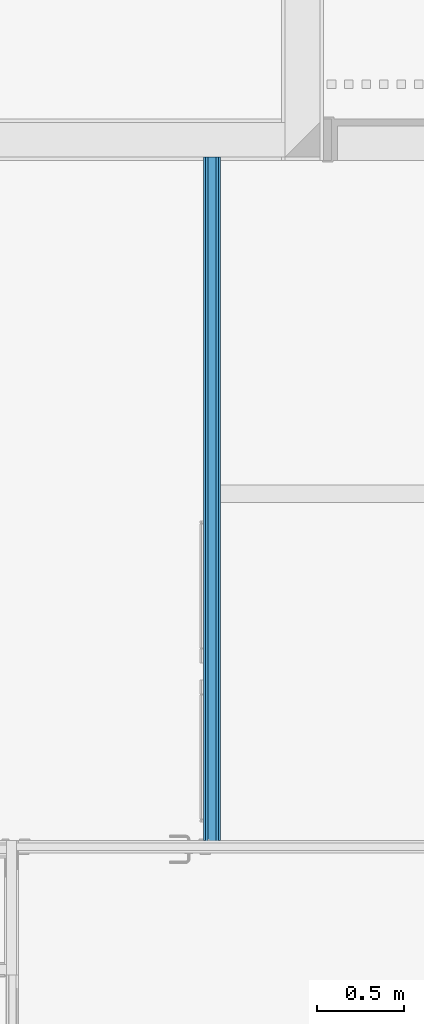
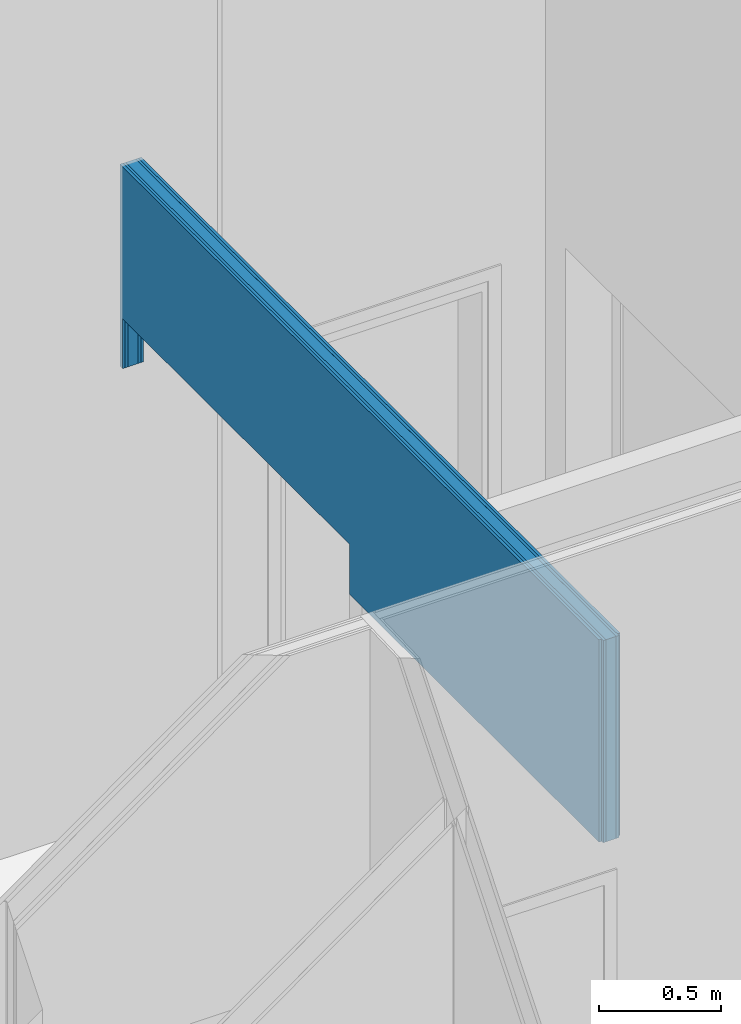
# One storey, part 32 of 34: 5 building element parts, 2 openings, 1 element without a shape of its own.
"""IFC2X3 building model written with IfcOpenShell, lengths in metres."""

from ifc_helpers import new_model, entity, si_unit, converted_unit, derived_unit, money_unit, direction, frame, origin_with_axes, origin_2d_with_axis, place, context, subcontext, project, spatial, polyline, rectangle, outline, extrude, boolean, faceted_brep, material, type_object, element, aggregate, save


model = new_model("IFC2X3")

# Units and contexts
model_context = context("Model", 3, precision=1e-05, world=origin_with_axes(), true_north=direction((0.0, 1.0)))
body_context = subcontext(model_context, "Body", "Model", "MODEL_VIEW")
ifc_project = project(units=[si_unit("LENGTHUNIT", "METRE"), si_unit("AREAUNIT", "SQUARE_METRE"), si_unit("VOLUMEUNIT", "CUBIC_METRE"), converted_unit("PLANEANGLEUNIT", "DEGREE", entity("IfcPlaneAngleMeasure", 0.0174532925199), si_unit("PLANEANGLEUNIT", "RADIAN"), dimensions=[0, 0, 0, 0, 0, 0, 0]), money_unit("CHF"), converted_unit("TIMEUNIT", "Year", entity("IfcTimeMeasure", 31556926.0), si_unit("TIMEUNIT", "SECOND"), dimensions=[0, 0, 1, 0, 0, 0, 0]), si_unit("MASSUNIT", "GRAM", prefix="KILO"), si_unit("THERMODYNAMICTEMPERATUREUNIT", "DEGREE_CELSIUS"), si_unit("LUMINOUSINTENSITYUNIT", "LUMEN"), si_unit("ENERGYUNIT", "JOULE", prefix="MEGA"), derived_unit("THERMALCONDUCTANCEUNIT", [(si_unit("POWERUNIT", "WATT"), 1), (si_unit("LENGTHUNIT", "METRE"), -1), (si_unit("THERMODYNAMICTEMPERATUREUNIT", "KELVIN"), -1)]), derived_unit("SPECIFICHEATCAPACITYUNIT", [(si_unit("ENERGYUNIT", "JOULE"), 1), (si_unit("MASSUNIT", "GRAM", prefix="KILO"), -1), (si_unit("THERMODYNAMICTEMPERATUREUNIT", "KELVIN"), -1)]), derived_unit("MASSDENSITYUNIT", [(si_unit("MASSUNIT", "GRAM", prefix="KILO"), 1), (si_unit("VOLUMEUNIT", "CUBIC_METRE"), -1)])], contexts=[model_context])

# Site, building, storey
site_placement = place(None, origin_with_axes())
site = spatial("IfcSite", under=ifc_project, at=site_placement, Name="Site", CompositionType="ELEMENT")
building_placement = place(site_placement, origin_with_axes())
building = spatial("IfcBuilding", under=site, at=building_placement, Name="Bâtiment", CompositionType="ELEMENT")
storey_placement = place(building_placement, origin_with_axes())
storey = spatial("IfcBuildingStorey", under=building, at=storey_placement, Name="Rez-de-chaussée", CompositionType="ELEMENT", Elevation=0.0)

# Wall, openings, building element parts
wall_type = type_object("IfcWallType", Name="Cloison 100/48 100", PredefinedType="NOTDEFINED")
wall_placement = place(storey_placement, frame((31.6794697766, 15.07, 2.25), z_axis=(0.0, 0.0, 1.0), x_axis=(0.0, -1.0, 0.0)))
wall = element("IfcWall", 1, at=wall_placement, inside=storey, type_object=wall_type, Name="MUR_EXT-009")
opening_1_placement = place(wall_placement, frame((3.11993716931, 0.0, -2.25), z_axis=(0.0, 0.0, 1.0), x_axis=(1.0, 0.0, 0.0)))
element("IfcOpeningElement", 2, at=opening_1_placement, cuts=wall, Name="PORTE-PP90 A2 - PF1/2H", context=body_context, shape_type="SweptSolid", body=[
    extrude(rectangle(XDim=1.93987433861, YDim=2.25, at=origin_2d_with_axis()), frame((0.0, -0.1, 1.125), z_axis=(0.0, -1.0, 0.0), x_axis=(-1.0, 0.0, 0.0)), (0.0, 0.0, -1.0), 0.3),
])
opening_2_placement = place(wall_placement, frame((1.12, 0.0, -2.25), z_axis=(0.0, 0.0, 1.0), x_axis=(1.0, 0.0, 0.0)))
element("IfcOpeningElement", 3, at=opening_2_placement, cuts=wall, Name="PORTE-003", context=body_context, shape_type="SweptSolid", body=[
    extrude(rectangle(XDim=1.86, YDim=2.5, at=origin_2d_with_axis()), frame((0.0, 0.1, 1.25), z_axis=(0.0, -1.0, 0.0), x_axis=(1.0, 0.0, 0.0)), (0.0, 0.0, 1.0), 0.3),
])
ifc_material_1 = material(Name="Finition int - Plaque de plâtre")
building_element_part_1_placement = place(wall_placement, origin_with_axes())
solid_1 = boolean("DIFFERENCE", boolean("DIFFERENCE", boolean("DIFFERENCE", boolean("DIFFERENCE", boolean("DIFFERENCE", boolean("DIFFERENCE", boolean("DIFFERENCE", boolean("DIFFERENCE", extrude(outline(polyline([(-0.05, 0.037), (4.15987433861, 0.037), (4.15987433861, 0.05), (-0.05, 0.05), (-0.05, 0.037)])), origin_with_axes(), (0.0, 0.0, 1.0), 1.01022608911), faceted_brep([(4.08987433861, 0.05, 0.0), (4.08987433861, 0.05, 1.01022608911), (4.15987433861, 0.05, 1.01022608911), (4.15987433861, 0.05, 0.0), (4.08987433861, 0.037, 1.01022608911), (4.08987433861, 0.037, 0.0), (4.15987433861, 0.037, 1.01022608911), (4.15987433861, 0.037, 0.0)], [[[0, 1, 2, 3]], [[4, 1, 0, 5]], [[1, 4, 6, 2]], [[6, 7, 3, 2]], [[5, 0, 3, 7]], [[4, 5, 7, 6]]])), faceted_brep([(2.137, 0.05, 0.25), (2.137, 0.05, 0.0), (2.063, 0.05, 0.0), (2.063, 0.05, 0.25), (2.137, 0.037, 0.25), (2.137, 0.037, 0.0), (2.063, 0.037, 0.0), (2.063, 0.037, 0.25), (2.076, 0.037, 0.25), (2.124, 0.037, 0.25)], [[[0, 1, 2, 3]], [[1, 0, 4, 5]], [[6, 2, 1, 5]], [[3, 2, 6, 7]], [[0, 3, 7, 8, 9, 4]], [[7, 6, 5, 4, 9, 8]]])), faceted_brep([(0.17, 0.037, 1.01022608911), (0.17, 0.05, 1.01022608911), (-0.05, 0.05, 1.01022608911), (-0.05, 0.037, 1.01022608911), (0.17, 0.05, 0.0), (0.17, 0.037, 0.0), (-0.05, 0.05, 0.0), (-0.05, 0.037, 0.0)], [[[0, 1, 2, 3]], [[4, 1, 0, 5]], [[1, 4, 6, 2]], [[2, 6, 7, 3]], [[5, 0, 3, 7]], [[4, 5, 7, 6]]])), faceted_brep([(4.10287433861, 0.037, 0.0), (4.10287433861, 0.037, 1.01022608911), (4.15987433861, 0.037, 1.01022608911), (4.15987433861, 0.037, 0.0), (4.10287433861, 0.024, 1.01022608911), (4.10287433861, 0.024, 0.0), (4.15987433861, 0.024, 1.01022608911), (4.15987433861, 0.024, 0.0)], [[[0, 1, 2, 3]], [[4, 1, 0, 5]], [[1, 4, 6, 2]], [[6, 7, 3, 2]], [[5, 0, 3, 7]], [[4, 5, 7, 6]]])), faceted_brep([(2.124, 0.037, 0.25), (2.124, 0.037, 0.0), (2.076, 0.037, 0.0), (2.076, 0.037, 0.25), (2.124, 0.024, 0.25), (2.124, 0.024, 0.0), (2.076, 0.024, 0.0), (2.076, 0.024, 0.25)], [[[0, 1, 2, 3]], [[1, 0, 4, 5]], [[6, 2, 1, 5]], [[3, 2, 6, 7]], [[0, 3, 7, 4]], [[7, 6, 5, 4]]])), faceted_brep([(0.17, 0.024, 1.01022608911), (0.17, 0.037, 1.01022608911), (-0.05, 0.037, 1.01022608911), (-0.05, 0.024, 1.01022608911), (0.17, 0.037, 0.0), (0.17, 0.024, 0.0), (-0.05, 0.037, 0.0), (-0.05, 0.024, 0.0)], [[[0, 1, 2, 3]], [[4, 1, 0, 5]], [[1, 4, 6, 2]], [[2, 6, 7, 3]], [[5, 0, 3, 7]], [[4, 5, 7, 6]]])), faceted_brep([(4.10287433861, 0.024, 0.0), (4.10287433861, 0.024, 1.01022608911), (4.15987433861, 0.024, 1.01022608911), (4.15987433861, 0.024, 0.0), (4.10287433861, -0.024, 1.01022608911), (4.10287433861, -0.024, 0.0), (4.15987433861, -0.024, 1.01022608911), (4.15987433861, -0.024, 0.0)], [[[0, 1, 2, 3]], [[4, 1, 0, 5]], [[1, 4, 6, 2]], [[6, 7, 3, 2]], [[5, 0, 3, 7]], [[4, 5, 7, 6]]])), faceted_brep([(0.17, -0.024, 1.01022608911), (0.17, 0.024, 1.01022608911), (-0.05, 0.024, 1.01022608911), (-0.05, -0.024, 1.01022608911), (0.17, -0.024, 0.0), (0.17, 0.024, 0.0), (-0.05, 0.024, 0.0), (-0.05, -0.024, 0.0)], [[[0, 1, 2, 3]], [[1, 0, 4, 5]], [[1, 5, 6, 2]], [[2, 6, 7, 3]], [[4, 0, 3, 7]], [[5, 4, 7, 6]]]))
building_element_part_1 = element("IfcBuildingElementPart", 4, at=building_element_part_1_placement, material=ifc_material_1, Name="Finition int - Plaque de plâtre", context=body_context, shape_type="CSG", body=[
    boolean("DIFFERENCE", boolean("DIFFERENCE", boolean("DIFFERENCE", boolean("DIFFERENCE", solid_1, faceted_brep([(4.10287433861, -0.024, 0.0), (4.10287433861, -0.024, 1.01022608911), (4.15987433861, -0.024, 1.01022608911), (4.15987433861, -0.024, 0.0), (4.10287433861, -0.037, 1.01022608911), (4.10287433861, -0.037, 0.0), (4.15987433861, -0.037, 1.01022608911), (4.15987433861, -0.037, 0.0)], [[[0, 1, 2, 3]], [[4, 1, 0, 5]], [[1, 4, 6, 2]], [[6, 7, 3, 2]], [[5, 0, 3, 7]], [[4, 5, 7, 6]]])), faceted_brep([(0.17, -0.037, 1.01022608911), (0.17, -0.024, 1.01022608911), (-0.05, -0.024, 1.01022608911), (-0.05, -0.037, 1.01022608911), (0.17, -0.037, 0.0), (0.17, -0.024, 0.0), (-0.05, -0.024, 0.0), (-0.05, -0.037, 0.0)], [[[0, 1, 2, 3]], [[1, 0, 4, 5]], [[1, 5, 6, 2]], [[2, 6, 7, 3]], [[4, 0, 3, 7]], [[5, 4, 7, 6]]])), faceted_brep([(4.08987433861, -0.037, 0.0), (4.08987433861, -0.037, 1.01022608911), (4.15987433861, -0.037, 1.01022608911), (4.15987433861, -0.037, 0.0), (4.08987433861, -0.05, 1.01022608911), (4.08987433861, -0.05, 0.0), (4.15987433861, -0.05, 1.01022608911), (4.15987433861, -0.05, 0.0)], [[[0, 1, 2, 3]], [[4, 1, 0, 5]], [[1, 4, 6, 2]], [[6, 7, 3, 2]], [[5, 0, 3, 7]], [[4, 5, 7, 6]]])), faceted_brep([(0.17, -0.05, 1.01022608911), (0.17, -0.037, 1.01022608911), (-0.05, -0.037, 1.01022608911), (-0.05, -0.05, 1.01022608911), (0.17, -0.037, 0.0), (0.17, -0.05, 0.0), (-0.05, -0.037, 0.0), (-0.05, -0.05, 0.0)], [[[0, 1, 2, 3]], [[4, 1, 0, 5]], [[1, 4, 6, 2]], [[2, 6, 7, 3]], [[5, 0, 3, 7]], [[4, 5, 7, 6]]])),
])
building_element_part_2_placement = place(wall_placement, origin_with_axes())
solid_2 = boolean("DIFFERENCE", boolean("DIFFERENCE", boolean("DIFFERENCE", boolean("DIFFERENCE", boolean("DIFFERENCE", boolean("DIFFERENCE", boolean("DIFFERENCE", boolean("DIFFERENCE", extrude(outline(polyline([(-0.05, 0.024), (4.15987433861, 0.024), (4.15987433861, 0.037), (-0.05, 0.037), (-0.05, 0.024)])), origin_with_axes(), (0.0, 0.0, 1.0), 1.01022608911), faceted_brep([(4.08987433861, 0.05, 0.0), (4.08987433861, 0.05, 1.01022608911), (4.15987433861, 0.05, 1.01022608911), (4.15987433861, 0.05, 0.0), (4.08987433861, 0.037, 1.01022608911), (4.08987433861, 0.037, 0.0), (4.15987433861, 0.037, 1.01022608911), (4.15987433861, 0.037, 0.0)], [[[0, 1, 2, 3]], [[4, 1, 0, 5]], [[1, 4, 6, 2]], [[6, 7, 3, 2]], [[5, 0, 3, 7]], [[4, 5, 7, 6]]])), faceted_brep([(2.137, 0.05, 0.25), (2.137, 0.05, 0.0), (2.063, 0.05, 0.0), (2.063, 0.05, 0.25), (2.137, 0.037, 0.25), (2.137, 0.037, 0.0), (2.063, 0.037, 0.0), (2.063, 0.037, 0.25), (2.076, 0.037, 0.25), (2.124, 0.037, 0.25)], [[[0, 1, 2, 3]], [[1, 0, 4, 5]], [[6, 2, 1, 5]], [[3, 2, 6, 7]], [[0, 3, 7, 8, 9, 4]], [[7, 6, 5, 4, 9, 8]]])), faceted_brep([(0.17, 0.037, 1.01022608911), (0.17, 0.05, 1.01022608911), (-0.05, 0.05, 1.01022608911), (-0.05, 0.037, 1.01022608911), (0.17, 0.05, 0.0), (0.17, 0.037, 0.0), (-0.05, 0.05, 0.0), (-0.05, 0.037, 0.0)], [[[0, 1, 2, 3]], [[4, 1, 0, 5]], [[1, 4, 6, 2]], [[2, 6, 7, 3]], [[5, 0, 3, 7]], [[4, 5, 7, 6]]])), faceted_brep([(4.10287433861, 0.037, 0.0), (4.10287433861, 0.037, 1.01022608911), (4.15987433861, 0.037, 1.01022608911), (4.15987433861, 0.037, 0.0), (4.10287433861, 0.024, 1.01022608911), (4.10287433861, 0.024, 0.0), (4.15987433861, 0.024, 1.01022608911), (4.15987433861, 0.024, 0.0)], [[[0, 1, 2, 3]], [[4, 1, 0, 5]], [[1, 4, 6, 2]], [[6, 7, 3, 2]], [[5, 0, 3, 7]], [[4, 5, 7, 6]]])), faceted_brep([(2.124, 0.037, 0.25), (2.124, 0.037, 0.0), (2.076, 0.037, 0.0), (2.076, 0.037, 0.25), (2.124, 0.024, 0.25), (2.124, 0.024, 0.0), (2.076, 0.024, 0.0), (2.076, 0.024, 0.25)], [[[0, 1, 2, 3]], [[1, 0, 4, 5]], [[6, 2, 1, 5]], [[3, 2, 6, 7]], [[0, 3, 7, 4]], [[7, 6, 5, 4]]])), faceted_brep([(0.17, 0.024, 1.01022608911), (0.17, 0.037, 1.01022608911), (-0.05, 0.037, 1.01022608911), (-0.05, 0.024, 1.01022608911), (0.17, 0.037, 0.0), (0.17, 0.024, 0.0), (-0.05, 0.037, 0.0), (-0.05, 0.024, 0.0)], [[[0, 1, 2, 3]], [[4, 1, 0, 5]], [[1, 4, 6, 2]], [[2, 6, 7, 3]], [[5, 0, 3, 7]], [[4, 5, 7, 6]]])), faceted_brep([(4.10287433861, 0.024, 0.0), (4.10287433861, 0.024, 1.01022608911), (4.15987433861, 0.024, 1.01022608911), (4.15987433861, 0.024, 0.0), (4.10287433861, -0.024, 1.01022608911), (4.10287433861, -0.024, 0.0), (4.15987433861, -0.024, 1.01022608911), (4.15987433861, -0.024, 0.0)], [[[0, 1, 2, 3]], [[4, 1, 0, 5]], [[1, 4, 6, 2]], [[6, 7, 3, 2]], [[5, 0, 3, 7]], [[4, 5, 7, 6]]])), faceted_brep([(0.17, -0.024, 1.01022608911), (0.17, 0.024, 1.01022608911), (-0.05, 0.024, 1.01022608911), (-0.05, -0.024, 1.01022608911), (0.17, -0.024, 0.0), (0.17, 0.024, 0.0), (-0.05, 0.024, 0.0), (-0.05, -0.024, 0.0)], [[[0, 1, 2, 3]], [[1, 0, 4, 5]], [[1, 5, 6, 2]], [[2, 6, 7, 3]], [[4, 0, 3, 7]], [[5, 4, 7, 6]]]))
building_element_part_2 = element("IfcBuildingElementPart", 5, at=building_element_part_2_placement, material=ifc_material_1, Name="Finition int - Plaque de plâtre", context=body_context, shape_type="CSG", body=[
    boolean("DIFFERENCE", boolean("DIFFERENCE", boolean("DIFFERENCE", boolean("DIFFERENCE", solid_2, faceted_brep([(4.10287433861, -0.024, 0.0), (4.10287433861, -0.024, 1.01022608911), (4.15987433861, -0.024, 1.01022608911), (4.15987433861, -0.024, 0.0), (4.10287433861, -0.037, 1.01022608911), (4.10287433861, -0.037, 0.0), (4.15987433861, -0.037, 1.01022608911), (4.15987433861, -0.037, 0.0)], [[[0, 1, 2, 3]], [[4, 1, 0, 5]], [[1, 4, 6, 2]], [[6, 7, 3, 2]], [[5, 0, 3, 7]], [[4, 5, 7, 6]]])), faceted_brep([(0.17, -0.037, 1.01022608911), (0.17, -0.024, 1.01022608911), (-0.05, -0.024, 1.01022608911), (-0.05, -0.037, 1.01022608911), (0.17, -0.037, 0.0), (0.17, -0.024, 0.0), (-0.05, -0.024, 0.0), (-0.05, -0.037, 0.0)], [[[0, 1, 2, 3]], [[1, 0, 4, 5]], [[1, 5, 6, 2]], [[2, 6, 7, 3]], [[4, 0, 3, 7]], [[5, 4, 7, 6]]])), faceted_brep([(4.08987433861, -0.037, 0.0), (4.08987433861, -0.037, 1.01022608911), (4.15987433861, -0.037, 1.01022608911), (4.15987433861, -0.037, 0.0), (4.08987433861, -0.05, 1.01022608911), (4.08987433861, -0.05, 0.0), (4.15987433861, -0.05, 1.01022608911), (4.15987433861, -0.05, 0.0)], [[[0, 1, 2, 3]], [[4, 1, 0, 5]], [[1, 4, 6, 2]], [[6, 7, 3, 2]], [[5, 0, 3, 7]], [[4, 5, 7, 6]]])), faceted_brep([(0.17, -0.05, 1.01022608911), (0.17, -0.037, 1.01022608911), (-0.05, -0.037, 1.01022608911), (-0.05, -0.05, 1.01022608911), (0.17, -0.037, 0.0), (0.17, -0.05, 0.0), (-0.05, -0.037, 0.0), (-0.05, -0.05, 0.0)], [[[0, 1, 2, 3]], [[4, 1, 0, 5]], [[1, 4, 6, 2]], [[2, 6, 7, 3]], [[5, 0, 3, 7]], [[4, 5, 7, 6]]])),
])
ifc_material_2 = material(Name="Isolation - Laine de verre")
building_element_part_3_placement = place(wall_placement, origin_with_axes())
solid_3 = boolean("DIFFERENCE", boolean("DIFFERENCE", boolean("DIFFERENCE", boolean("DIFFERENCE", boolean("DIFFERENCE", boolean("DIFFERENCE", boolean("DIFFERENCE", boolean("DIFFERENCE", extrude(outline(polyline([(-0.05, -0.024), (4.15987433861, -0.024), (4.15987433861, 0.024), (-0.05, 0.024), (-0.05, -0.024)])), origin_with_axes(), (0.0, 0.0, 1.0), 1.01022608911), faceted_brep([(4.08987433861, 0.05, 0.0), (4.08987433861, 0.05, 1.01022608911), (4.15987433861, 0.05, 1.01022608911), (4.15987433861, 0.05, 0.0), (4.08987433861, 0.037, 1.01022608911), (4.08987433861, 0.037, 0.0), (4.15987433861, 0.037, 1.01022608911), (4.15987433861, 0.037, 0.0)], [[[0, 1, 2, 3]], [[4, 1, 0, 5]], [[1, 4, 6, 2]], [[6, 7, 3, 2]], [[5, 0, 3, 7]], [[4, 5, 7, 6]]])), faceted_brep([(2.137, 0.05, 0.25), (2.137, 0.05, 0.0), (2.063, 0.05, 0.0), (2.063, 0.05, 0.25), (2.137, 0.037, 0.25), (2.137, 0.037, 0.0), (2.063, 0.037, 0.0), (2.063, 0.037, 0.25), (2.076, 0.037, 0.25), (2.124, 0.037, 0.25)], [[[0, 1, 2, 3]], [[1, 0, 4, 5]], [[6, 2, 1, 5]], [[3, 2, 6, 7]], [[0, 3, 7, 8, 9, 4]], [[7, 6, 5, 4, 9, 8]]])), faceted_brep([(0.17, 0.037, 1.01022608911), (0.17, 0.05, 1.01022608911), (-0.05, 0.05, 1.01022608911), (-0.05, 0.037, 1.01022608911), (0.17, 0.05, 0.0), (0.17, 0.037, 0.0), (-0.05, 0.05, 0.0), (-0.05, 0.037, 0.0)], [[[0, 1, 2, 3]], [[4, 1, 0, 5]], [[1, 4, 6, 2]], [[2, 6, 7, 3]], [[5, 0, 3, 7]], [[4, 5, 7, 6]]])), faceted_brep([(4.10287433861, 0.037, 0.0), (4.10287433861, 0.037, 1.01022608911), (4.15987433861, 0.037, 1.01022608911), (4.15987433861, 0.037, 0.0), (4.10287433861, 0.024, 1.01022608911), (4.10287433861, 0.024, 0.0), (4.15987433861, 0.024, 1.01022608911), (4.15987433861, 0.024, 0.0)], [[[0, 1, 2, 3]], [[4, 1, 0, 5]], [[1, 4, 6, 2]], [[6, 7, 3, 2]], [[5, 0, 3, 7]], [[4, 5, 7, 6]]])), faceted_brep([(2.124, 0.037, 0.25), (2.124, 0.037, 0.0), (2.076, 0.037, 0.0), (2.076, 0.037, 0.25), (2.124, 0.024, 0.25), (2.124, 0.024, 0.0), (2.076, 0.024, 0.0), (2.076, 0.024, 0.25)], [[[0, 1, 2, 3]], [[1, 0, 4, 5]], [[6, 2, 1, 5]], [[3, 2, 6, 7]], [[0, 3, 7, 4]], [[7, 6, 5, 4]]])), faceted_brep([(0.17, 0.024, 1.01022608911), (0.17, 0.037, 1.01022608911), (-0.05, 0.037, 1.01022608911), (-0.05, 0.024, 1.01022608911), (0.17, 0.037, 0.0), (0.17, 0.024, 0.0), (-0.05, 0.037, 0.0), (-0.05, 0.024, 0.0)], [[[0, 1, 2, 3]], [[4, 1, 0, 5]], [[1, 4, 6, 2]], [[2, 6, 7, 3]], [[5, 0, 3, 7]], [[4, 5, 7, 6]]])), faceted_brep([(4.10287433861, 0.024, 0.0), (4.10287433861, 0.024, 1.01022608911), (4.15987433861, 0.024, 1.01022608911), (4.15987433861, 0.024, 0.0), (4.10287433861, -0.024, 1.01022608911), (4.10287433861, -0.024, 0.0), (4.15987433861, -0.024, 1.01022608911), (4.15987433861, -0.024, 0.0)], [[[0, 1, 2, 3]], [[4, 1, 0, 5]], [[1, 4, 6, 2]], [[6, 7, 3, 2]], [[5, 0, 3, 7]], [[4, 5, 7, 6]]])), faceted_brep([(0.17, -0.024, 1.01022608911), (0.17, 0.024, 1.01022608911), (-0.05, 0.024, 1.01022608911), (-0.05, -0.024, 1.01022608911), (0.17, -0.024, 0.0), (0.17, 0.024, 0.0), (-0.05, 0.024, 0.0), (-0.05, -0.024, 0.0)], [[[0, 1, 2, 3]], [[1, 0, 4, 5]], [[1, 5, 6, 2]], [[2, 6, 7, 3]], [[4, 0, 3, 7]], [[5, 4, 7, 6]]]))
building_element_part_3 = element("IfcBuildingElementPart", 6, at=building_element_part_3_placement, material=ifc_material_2, Name="Isolation - Laine de verre", context=body_context, shape_type="CSG", body=[
    boolean("DIFFERENCE", boolean("DIFFERENCE", boolean("DIFFERENCE", boolean("DIFFERENCE", solid_3, faceted_brep([(4.10287433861, -0.024, 0.0), (4.10287433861, -0.024, 1.01022608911), (4.15987433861, -0.024, 1.01022608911), (4.15987433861, -0.024, 0.0), (4.10287433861, -0.037, 1.01022608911), (4.10287433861, -0.037, 0.0), (4.15987433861, -0.037, 1.01022608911), (4.15987433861, -0.037, 0.0)], [[[0, 1, 2, 3]], [[4, 1, 0, 5]], [[1, 4, 6, 2]], [[6, 7, 3, 2]], [[5, 0, 3, 7]], [[4, 5, 7, 6]]])), faceted_brep([(0.17, -0.037, 1.01022608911), (0.17, -0.024, 1.01022608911), (-0.05, -0.024, 1.01022608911), (-0.05, -0.037, 1.01022608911), (0.17, -0.037, 0.0), (0.17, -0.024, 0.0), (-0.05, -0.024, 0.0), (-0.05, -0.037, 0.0)], [[[0, 1, 2, 3]], [[1, 0, 4, 5]], [[1, 5, 6, 2]], [[2, 6, 7, 3]], [[4, 0, 3, 7]], [[5, 4, 7, 6]]])), faceted_brep([(4.08987433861, -0.037, 0.0), (4.08987433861, -0.037, 1.01022608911), (4.15987433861, -0.037, 1.01022608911), (4.15987433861, -0.037, 0.0), (4.08987433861, -0.05, 1.01022608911), (4.08987433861, -0.05, 0.0), (4.15987433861, -0.05, 1.01022608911), (4.15987433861, -0.05, 0.0)], [[[0, 1, 2, 3]], [[4, 1, 0, 5]], [[1, 4, 6, 2]], [[6, 7, 3, 2]], [[5, 0, 3, 7]], [[4, 5, 7, 6]]])), faceted_brep([(0.17, -0.05, 1.01022608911), (0.17, -0.037, 1.01022608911), (-0.05, -0.037, 1.01022608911), (-0.05, -0.05, 1.01022608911), (0.17, -0.037, 0.0), (0.17, -0.05, 0.0), (-0.05, -0.037, 0.0), (-0.05, -0.05, 0.0)], [[[0, 1, 2, 3]], [[4, 1, 0, 5]], [[1, 4, 6, 2]], [[2, 6, 7, 3]], [[5, 0, 3, 7]], [[4, 5, 7, 6]]])),
])
building_element_part_4_placement = place(wall_placement, origin_with_axes())
solid_4 = boolean("DIFFERENCE", boolean("DIFFERENCE", boolean("DIFFERENCE", boolean("DIFFERENCE", boolean("DIFFERENCE", boolean("DIFFERENCE", boolean("DIFFERENCE", boolean("DIFFERENCE", extrude(outline(polyline([(-0.05, -0.037), (4.15987433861, -0.037), (4.15987433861, -0.024), (-0.05, -0.024), (-0.05, -0.037)])), origin_with_axes(), (0.0, 0.0, 1.0), 1.01022608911), faceted_brep([(4.08987433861, 0.05, 0.0), (4.08987433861, 0.05, 1.01022608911), (4.15987433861, 0.05, 1.01022608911), (4.15987433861, 0.05, 0.0), (4.08987433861, 0.037, 1.01022608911), (4.08987433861, 0.037, 0.0), (4.15987433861, 0.037, 1.01022608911), (4.15987433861, 0.037, 0.0)], [[[0, 1, 2, 3]], [[4, 1, 0, 5]], [[1, 4, 6, 2]], [[6, 7, 3, 2]], [[5, 0, 3, 7]], [[4, 5, 7, 6]]])), faceted_brep([(2.137, 0.05, 0.25), (2.137, 0.05, 0.0), (2.063, 0.05, 0.0), (2.063, 0.05, 0.25), (2.137, 0.037, 0.25), (2.137, 0.037, 0.0), (2.063, 0.037, 0.0), (2.063, 0.037, 0.25), (2.076, 0.037, 0.25), (2.124, 0.037, 0.25)], [[[0, 1, 2, 3]], [[1, 0, 4, 5]], [[6, 2, 1, 5]], [[3, 2, 6, 7]], [[0, 3, 7, 8, 9, 4]], [[7, 6, 5, 4, 9, 8]]])), faceted_brep([(0.17, 0.037, 1.01022608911), (0.17, 0.05, 1.01022608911), (-0.05, 0.05, 1.01022608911), (-0.05, 0.037, 1.01022608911), (0.17, 0.05, 0.0), (0.17, 0.037, 0.0), (-0.05, 0.05, 0.0), (-0.05, 0.037, 0.0)], [[[0, 1, 2, 3]], [[4, 1, 0, 5]], [[1, 4, 6, 2]], [[2, 6, 7, 3]], [[5, 0, 3, 7]], [[4, 5, 7, 6]]])), faceted_brep([(4.10287433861, 0.037, 0.0), (4.10287433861, 0.037, 1.01022608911), (4.15987433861, 0.037, 1.01022608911), (4.15987433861, 0.037, 0.0), (4.10287433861, 0.024, 1.01022608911), (4.10287433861, 0.024, 0.0), (4.15987433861, 0.024, 1.01022608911), (4.15987433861, 0.024, 0.0)], [[[0, 1, 2, 3]], [[4, 1, 0, 5]], [[1, 4, 6, 2]], [[6, 7, 3, 2]], [[5, 0, 3, 7]], [[4, 5, 7, 6]]])), faceted_brep([(2.124, 0.037, 0.25), (2.124, 0.037, 0.0), (2.076, 0.037, 0.0), (2.076, 0.037, 0.25), (2.124, 0.024, 0.25), (2.124, 0.024, 0.0), (2.076, 0.024, 0.0), (2.076, 0.024, 0.25)], [[[0, 1, 2, 3]], [[1, 0, 4, 5]], [[6, 2, 1, 5]], [[3, 2, 6, 7]], [[0, 3, 7, 4]], [[7, 6, 5, 4]]])), faceted_brep([(0.17, 0.024, 1.01022608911), (0.17, 0.037, 1.01022608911), (-0.05, 0.037, 1.01022608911), (-0.05, 0.024, 1.01022608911), (0.17, 0.037, 0.0), (0.17, 0.024, 0.0), (-0.05, 0.037, 0.0), (-0.05, 0.024, 0.0)], [[[0, 1, 2, 3]], [[4, 1, 0, 5]], [[1, 4, 6, 2]], [[2, 6, 7, 3]], [[5, 0, 3, 7]], [[4, 5, 7, 6]]])), faceted_brep([(4.10287433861, 0.024, 0.0), (4.10287433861, 0.024, 1.01022608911), (4.15987433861, 0.024, 1.01022608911), (4.15987433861, 0.024, 0.0), (4.10287433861, -0.024, 1.01022608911), (4.10287433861, -0.024, 0.0), (4.15987433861, -0.024, 1.01022608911), (4.15987433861, -0.024, 0.0)], [[[0, 1, 2, 3]], [[4, 1, 0, 5]], [[1, 4, 6, 2]], [[6, 7, 3, 2]], [[5, 0, 3, 7]], [[4, 5, 7, 6]]])), faceted_brep([(0.17, -0.024, 1.01022608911), (0.17, 0.024, 1.01022608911), (-0.05, 0.024, 1.01022608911), (-0.05, -0.024, 1.01022608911), (0.17, -0.024, 0.0), (0.17, 0.024, 0.0), (-0.05, 0.024, 0.0), (-0.05, -0.024, 0.0)], [[[0, 1, 2, 3]], [[1, 0, 4, 5]], [[1, 5, 6, 2]], [[2, 6, 7, 3]], [[4, 0, 3, 7]], [[5, 4, 7, 6]]]))
building_element_part_4 = element("IfcBuildingElementPart", 7, at=building_element_part_4_placement, material=ifc_material_1, Name="Finition int - Plaque de plâtre", context=body_context, shape_type="CSG", body=[
    boolean("DIFFERENCE", boolean("DIFFERENCE", boolean("DIFFERENCE", boolean("DIFFERENCE", solid_4, faceted_brep([(4.10287433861, -0.024, 0.0), (4.10287433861, -0.024, 1.01022608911), (4.15987433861, -0.024, 1.01022608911), (4.15987433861, -0.024, 0.0), (4.10287433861, -0.037, 1.01022608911), (4.10287433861, -0.037, 0.0), (4.15987433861, -0.037, 1.01022608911), (4.15987433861, -0.037, 0.0)], [[[0, 1, 2, 3]], [[4, 1, 0, 5]], [[1, 4, 6, 2]], [[6, 7, 3, 2]], [[5, 0, 3, 7]], [[4, 5, 7, 6]]])), faceted_brep([(0.17, -0.037, 1.01022608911), (0.17, -0.024, 1.01022608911), (-0.05, -0.024, 1.01022608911), (-0.05, -0.037, 1.01022608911), (0.17, -0.037, 0.0), (0.17, -0.024, 0.0), (-0.05, -0.024, 0.0), (-0.05, -0.037, 0.0)], [[[0, 1, 2, 3]], [[1, 0, 4, 5]], [[1, 5, 6, 2]], [[2, 6, 7, 3]], [[4, 0, 3, 7]], [[5, 4, 7, 6]]])), faceted_brep([(4.08987433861, -0.037, 0.0), (4.08987433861, -0.037, 1.01022608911), (4.15987433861, -0.037, 1.01022608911), (4.15987433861, -0.037, 0.0), (4.08987433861, -0.05, 1.01022608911), (4.08987433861, -0.05, 0.0), (4.15987433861, -0.05, 1.01022608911), (4.15987433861, -0.05, 0.0)], [[[0, 1, 2, 3]], [[4, 1, 0, 5]], [[1, 4, 6, 2]], [[6, 7, 3, 2]], [[5, 0, 3, 7]], [[4, 5, 7, 6]]])), faceted_brep([(0.17, -0.05, 1.01022608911), (0.17, -0.037, 1.01022608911), (-0.05, -0.037, 1.01022608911), (-0.05, -0.05, 1.01022608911), (0.17, -0.037, 0.0), (0.17, -0.05, 0.0), (-0.05, -0.037, 0.0), (-0.05, -0.05, 0.0)], [[[0, 1, 2, 3]], [[4, 1, 0, 5]], [[1, 4, 6, 2]], [[2, 6, 7, 3]], [[5, 0, 3, 7]], [[4, 5, 7, 6]]])),
])
building_element_part_5_placement = place(wall_placement, origin_with_axes())
solid_5 = boolean("DIFFERENCE", boolean("DIFFERENCE", boolean("DIFFERENCE", boolean("DIFFERENCE", boolean("DIFFERENCE", boolean("DIFFERENCE", boolean("DIFFERENCE", boolean("DIFFERENCE", extrude(outline(polyline([(-0.05, -0.05), (4.15987433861, -0.05), (4.15987433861, -0.037), (-0.05, -0.037), (-0.05, -0.05)])), origin_with_axes(), (0.0, 0.0, 1.0), 1.01022608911), faceted_brep([(4.08987433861, 0.05, 0.0), (4.08987433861, 0.05, 1.01022608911), (4.15987433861, 0.05, 1.01022608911), (4.15987433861, 0.05, 0.0), (4.08987433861, 0.037, 1.01022608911), (4.08987433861, 0.037, 0.0), (4.15987433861, 0.037, 1.01022608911), (4.15987433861, 0.037, 0.0)], [[[0, 1, 2, 3]], [[4, 1, 0, 5]], [[1, 4, 6, 2]], [[6, 7, 3, 2]], [[5, 0, 3, 7]], [[4, 5, 7, 6]]])), faceted_brep([(2.137, 0.05, 0.25), (2.137, 0.05, 0.0), (2.063, 0.05, 0.0), (2.063, 0.05, 0.25), (2.137, 0.037, 0.25), (2.137, 0.037, 0.0), (2.063, 0.037, 0.0), (2.063, 0.037, 0.25), (2.076, 0.037, 0.25), (2.124, 0.037, 0.25)], [[[0, 1, 2, 3]], [[1, 0, 4, 5]], [[6, 2, 1, 5]], [[3, 2, 6, 7]], [[0, 3, 7, 8, 9, 4]], [[7, 6, 5, 4, 9, 8]]])), faceted_brep([(0.17, 0.037, 1.01022608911), (0.17, 0.05, 1.01022608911), (-0.05, 0.05, 1.01022608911), (-0.05, 0.037, 1.01022608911), (0.17, 0.05, 0.0), (0.17, 0.037, 0.0), (-0.05, 0.05, 0.0), (-0.05, 0.037, 0.0)], [[[0, 1, 2, 3]], [[4, 1, 0, 5]], [[1, 4, 6, 2]], [[2, 6, 7, 3]], [[5, 0, 3, 7]], [[4, 5, 7, 6]]])), faceted_brep([(4.10287433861, 0.037, 0.0), (4.10287433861, 0.037, 1.01022608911), (4.15987433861, 0.037, 1.01022608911), (4.15987433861, 0.037, 0.0), (4.10287433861, 0.024, 1.01022608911), (4.10287433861, 0.024, 0.0), (4.15987433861, 0.024, 1.01022608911), (4.15987433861, 0.024, 0.0)], [[[0, 1, 2, 3]], [[4, 1, 0, 5]], [[1, 4, 6, 2]], [[6, 7, 3, 2]], [[5, 0, 3, 7]], [[4, 5, 7, 6]]])), faceted_brep([(2.124, 0.037, 0.25), (2.124, 0.037, 0.0), (2.076, 0.037, 0.0), (2.076, 0.037, 0.25), (2.124, 0.024, 0.25), (2.124, 0.024, 0.0), (2.076, 0.024, 0.0), (2.076, 0.024, 0.25)], [[[0, 1, 2, 3]], [[1, 0, 4, 5]], [[6, 2, 1, 5]], [[3, 2, 6, 7]], [[0, 3, 7, 4]], [[7, 6, 5, 4]]])), faceted_brep([(0.17, 0.024, 1.01022608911), (0.17, 0.037, 1.01022608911), (-0.05, 0.037, 1.01022608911), (-0.05, 0.024, 1.01022608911), (0.17, 0.037, 0.0), (0.17, 0.024, 0.0), (-0.05, 0.037, 0.0), (-0.05, 0.024, 0.0)], [[[0, 1, 2, 3]], [[4, 1, 0, 5]], [[1, 4, 6, 2]], [[2, 6, 7, 3]], [[5, 0, 3, 7]], [[4, 5, 7, 6]]])), faceted_brep([(4.10287433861, 0.024, 0.0), (4.10287433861, 0.024, 1.01022608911), (4.15987433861, 0.024, 1.01022608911), (4.15987433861, 0.024, 0.0), (4.10287433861, -0.024, 1.01022608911), (4.10287433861, -0.024, 0.0), (4.15987433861, -0.024, 1.01022608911), (4.15987433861, -0.024, 0.0)], [[[0, 1, 2, 3]], [[4, 1, 0, 5]], [[1, 4, 6, 2]], [[6, 7, 3, 2]], [[5, 0, 3, 7]], [[4, 5, 7, 6]]])), faceted_brep([(0.17, -0.024, 1.01022608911), (0.17, 0.024, 1.01022608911), (-0.05, 0.024, 1.01022608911), (-0.05, -0.024, 1.01022608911), (0.17, -0.024, 0.0), (0.17, 0.024, 0.0), (-0.05, 0.024, 0.0), (-0.05, -0.024, 0.0)], [[[0, 1, 2, 3]], [[1, 0, 4, 5]], [[1, 5, 6, 2]], [[2, 6, 7, 3]], [[4, 0, 3, 7]], [[5, 4, 7, 6]]]))
building_element_part_5 = element("IfcBuildingElementPart", 8, at=building_element_part_5_placement, material=ifc_material_1, Name="Finition int - Plaque de plâtre", context=body_context, shape_type="CSG", body=[
    boolean("DIFFERENCE", boolean("DIFFERENCE", boolean("DIFFERENCE", boolean("DIFFERENCE", solid_5, faceted_brep([(4.10287433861, -0.024, 0.0), (4.10287433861, -0.024, 1.01022608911), (4.15987433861, -0.024, 1.01022608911), (4.15987433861, -0.024, 0.0), (4.10287433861, -0.037, 1.01022608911), (4.10287433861, -0.037, 0.0), (4.15987433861, -0.037, 1.01022608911), (4.15987433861, -0.037, 0.0)], [[[0, 1, 2, 3]], [[4, 1, 0, 5]], [[1, 4, 6, 2]], [[6, 7, 3, 2]], [[5, 0, 3, 7]], [[4, 5, 7, 6]]])), faceted_brep([(0.17, -0.037, 1.01022608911), (0.17, -0.024, 1.01022608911), (-0.05, -0.024, 1.01022608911), (-0.05, -0.037, 1.01022608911), (0.17, -0.037, 0.0), (0.17, -0.024, 0.0), (-0.05, -0.024, 0.0), (-0.05, -0.037, 0.0)], [[[0, 1, 2, 3]], [[1, 0, 4, 5]], [[1, 5, 6, 2]], [[2, 6, 7, 3]], [[4, 0, 3, 7]], [[5, 4, 7, 6]]])), faceted_brep([(4.08987433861, -0.037, 0.0), (4.08987433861, -0.037, 1.01022608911), (4.15987433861, -0.037, 1.01022608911), (4.15987433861, -0.037, 0.0), (4.08987433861, -0.05, 1.01022608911), (4.08987433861, -0.05, 0.0), (4.15987433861, -0.05, 1.01022608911), (4.15987433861, -0.05, 0.0)], [[[0, 1, 2, 3]], [[4, 1, 0, 5]], [[1, 4, 6, 2]], [[6, 7, 3, 2]], [[5, 0, 3, 7]], [[4, 5, 7, 6]]])), faceted_brep([(0.17, -0.05, 1.01022608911), (0.17, -0.037, 1.01022608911), (-0.05, -0.037, 1.01022608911), (-0.05, -0.05, 1.01022608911), (0.17, -0.037, 0.0), (0.17, -0.05, 0.0), (-0.05, -0.037, 0.0), (-0.05, -0.05, 0.0)], [[[0, 1, 2, 3]], [[4, 1, 0, 5]], [[1, 4, 6, 2]], [[2, 6, 7, 3]], [[5, 0, 3, 7]], [[4, 5, 7, 6]]])),
])
aggregate(wall, [building_element_part_1, building_element_part_2, building_element_part_3, building_element_part_4, building_element_part_5])

save(model, "model.ifc")
